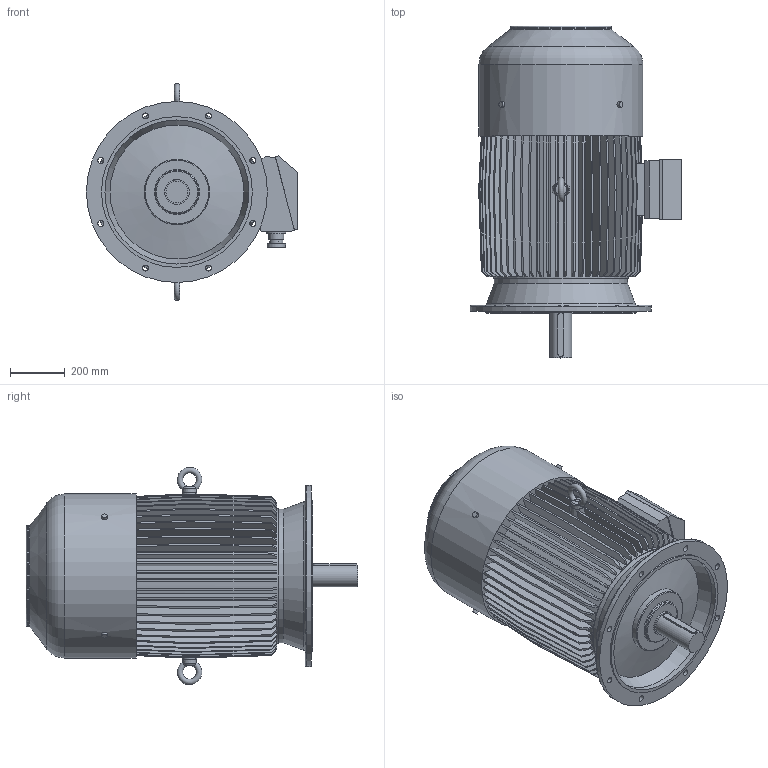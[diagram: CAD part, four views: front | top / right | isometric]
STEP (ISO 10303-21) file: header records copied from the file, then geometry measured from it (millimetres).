
FILE_DESCRIPTION( ( 'Unknown' ), '1' );
FILE_NAME( 'P:/3D_Bry³y silników skatalogowane/2Sg/2Sg315/2SKg315S4_M4.stp', 'Unknown', ( 'Unknown' ), ( 'Unknown' ), 'XStep 1.0', 'Unknown', ' ' );
FILE_SCHEMA( ( 'CONFIG_CONTROL_DESIGN' ) );
Length unit declared in the file: millimetre
Products named in the file (1): 1
Bounding box: 770 x 1210 x 791.97 mm (x, y, z)
Volume: 238612769 mm3; surface area: 5616312.9 mm2
Topology: 1 solids, 1 shells, 481 faces, 1354 edges, 898 vertices
Faces by surface type: plane 410, cylinder 46, torus 14, cone 11
Full cylindrical faces by diameter (mm): 20 x4, 22 x8, 38.722 x2, 48.628 x2, 55.029 x2, 67.566 x2, 68.767 x2, 80 x1, 90 x1, 157.917 x1, 238.53 x1, 367.437 x1, 486 x1, 490 x1, 525 x1, 550 x1, 598 x1, 660 x1
Entity records: 16182 total; most frequent: CARTESIAN_POINT 3855, ORIENTED_EDGE 2570, DIRECTION 2426, EDGE_CURVE 1285, LINE 1010, VECTOR 1010, VERTEX_POINT 883, AXIS2_PLACEMENT_3D 708
